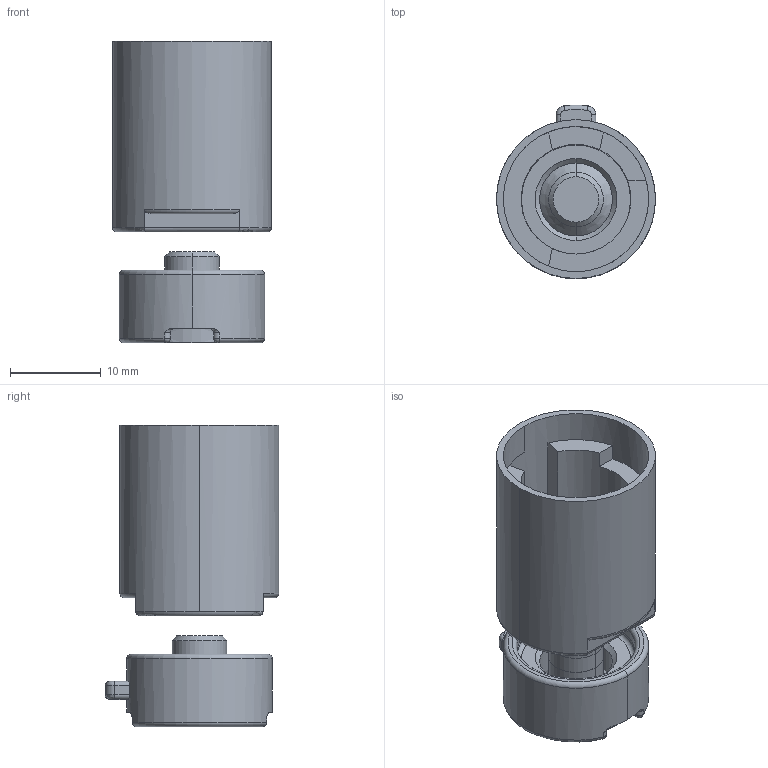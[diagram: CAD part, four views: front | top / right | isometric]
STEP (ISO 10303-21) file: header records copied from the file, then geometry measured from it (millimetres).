
FILE_DESCRIPTION((''),'2;1');
FILE_NAME('LVS079_3D-SIMPLIFIED_ASM','2021-03-31T17:27:41',('Prax.07'),('Schneider-Electric'),'CREO PARAMETRIC BY PTC INC, 2018300','CREO PARAMETRIC BY PTC INC, 2018300','');
FILE_SCHEMA(('CONFIG_CONTROL_DESIGN'));
Length unit declared in the file: millimetre
Products named in the file (2): LVS07942; LVS079_3D-SIMPLIFIED_ASM
Assembly tree (1 placements, depth 2):
  LVS079_3D-SIMPLIFIED_ASM
    LVS07942
Bounding box: 17.5 x 19.14 x 33.2 mm (x, y, z)
Volume: 3463.3 mm3; surface area: 3412.7 mm2
Topology: 2 solids, 2 shells, 118 faces, 283 edges, 174 vertices
Faces by surface type: plane 39, cylinder 37, torus 29, cone 6, sphere 4, bspline 3
Entity records: 3709 total; most frequent: CARTESIAN_POINT 849, DIRECTION 633, ORIENTED_EDGE 566, EDGE_CURVE 283, AXIS2_PLACEMENT_3D 260, VERTEX_POINT 174, CIRCLE 142, EDGE_LOOP 125
